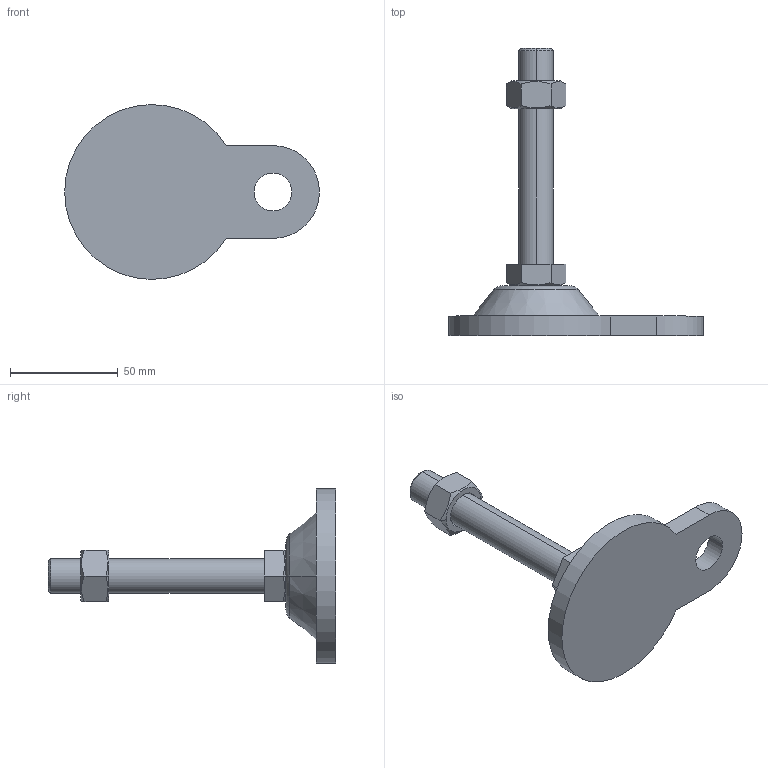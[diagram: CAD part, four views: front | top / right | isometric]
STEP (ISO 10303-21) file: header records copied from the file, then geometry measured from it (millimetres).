
FILE_DESCRIPTION (( 'STEP AP214' ), '1' );
FILE_NAME ('ARB81-M16-100.step', '2021-01-07T07:17:08', ( '' ), ( '' ), 'SwSTEP 2.0', 'SolidWorks 2019', '' );
FILE_SCHEMA (( 'AUTOMOTIVE_DESIGN' ));
Length unit declared in the file: millimetre
Products named in the file (1): ARB81-M16-100
Bounding box: 118 x 133 x 80.98 mm (x, y, z)
Volume: 111461.1 mm3; surface area: 26098.3 mm2
Topology: 3 solids, 3 shells, 46 faces, 100 edges, 62 vertices
Faces by surface type: plane 22, cone 14, cylinder 8, torus 2
Entity records: 1470 total; most frequent: CARTESIAN_POINT 407, DIRECTION 212, ORIENTED_EDGE 200, EDGE_CURVE 100, AXIS2_PLACEMENT_3D 83, VERTEX_POINT 62, EDGE_LOOP 52, LINE 46
